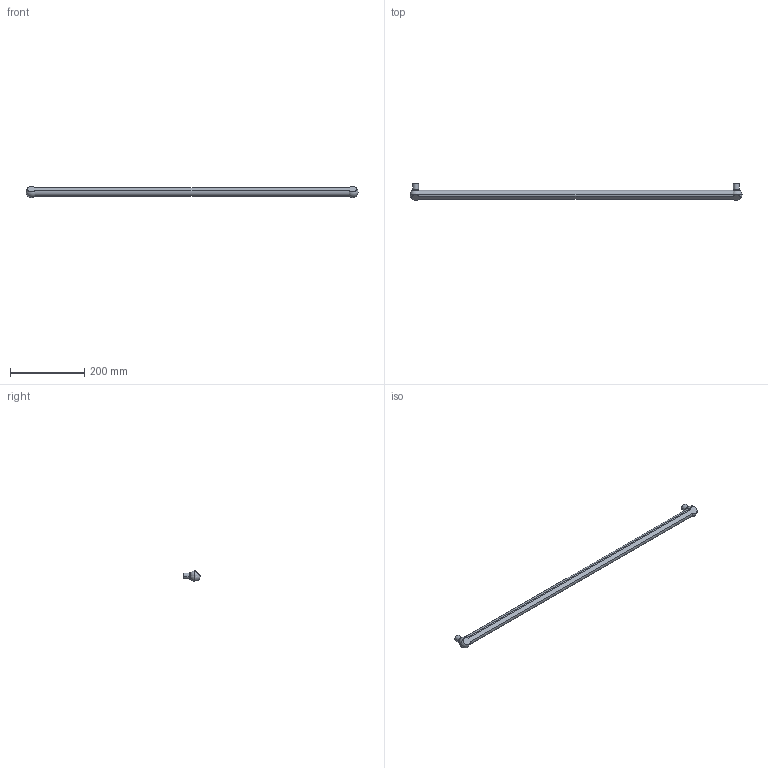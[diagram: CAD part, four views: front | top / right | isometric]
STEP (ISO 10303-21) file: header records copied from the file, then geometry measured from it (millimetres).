
FILE_DESCRIPTION( ( '' ), '1' );
FILE_NAME( 'D:/1.AUTOCAD EXPORT/Group 10/sheet_10_1/9105774.stp', '2013-10-18T08:28:07', ( '' ), ( '' ), ' ', ' ', ' ' );
FILE_SCHEMA( ( 'automotive_design' ) );
Length unit declared in the file: millimetre
Products named in the file (1): 1
Bounding box: 895 x 45 x 30 mm (x, y, z)
Volume: 404312.5 mm3; surface area: 69765.7 mm2
Topology: 1 solids, 1 shells, 26 faces, 72 edges, 40 vertices
Faces by surface type: cylinder 11, sphere 6, plane 5, torus 4
Entity records: 1548 total; most frequent: DIRECTION 162, CARTESIAN_POINT 157, STYLED_ITEM 129, PRESENTATION_STYLE_ASSIGNMENT 129, COLOUR_RGB 129, ORIENTED_EDGE 124, AXIS2_PLACEMENT_3D 75, EDGE_CURVE 62
